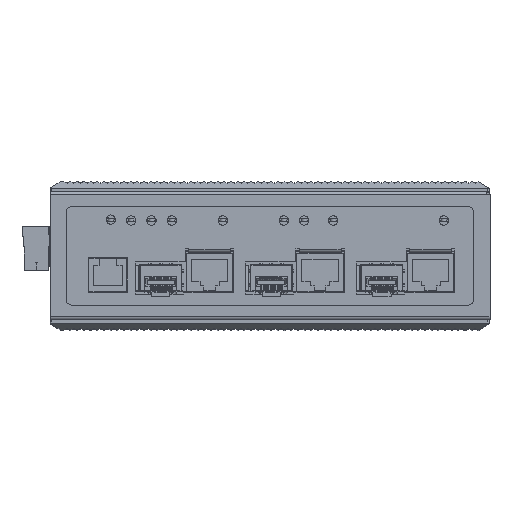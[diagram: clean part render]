
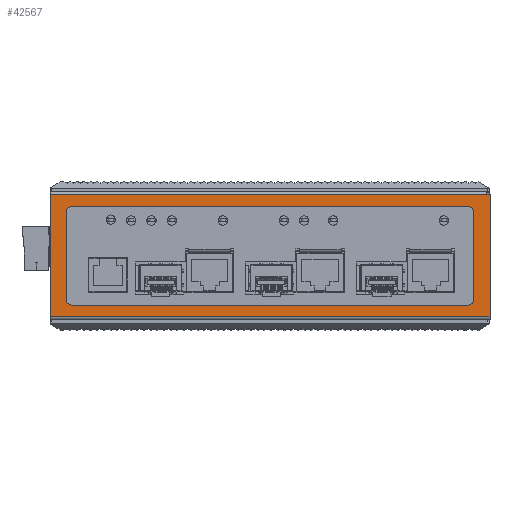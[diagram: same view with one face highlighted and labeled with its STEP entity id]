
A CAD part, top view. The second image highlights one B-rep face of the part: STEP entity #42567.
In plain terms, the highlighted planar face has unit normal (0, 0, 1).
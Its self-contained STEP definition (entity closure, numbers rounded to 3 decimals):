
#38618=DIRECTION('',(0.,-1.,0.));
#38619=VECTOR('',#38618,42.);
#38620=CARTESIAN_POINT('',(-75.8,35.,50.9));
#38621=LINE('',#38620,#38619);
#38622=DIRECTION('',(-1.,0.,0.));
#38623=VECTOR('',#38622,1.2);
#38624=CARTESIAN_POINT('',(75.4,35.,50.9));
#38625=LINE('',#38624,#38623);
#38626=DIRECTION('',(0.,1.,0.));
#38627=VECTOR('',#38626,42.);
#38628=CARTESIAN_POINT('',(75.4,-7.,50.9));
#38629=LINE('',#38628,#38627);
#38630=CARTESIAN_POINT('',(67.7,-1.,50.9));
#38631=DIRECTION('',(0.,0.,-1.));
#38632=DIRECTION('',(1.,0.,0.));
#38633=AXIS2_PLACEMENT_3D('',#38630,#38631,#38632);
#38635=DIRECTION('',(0.,-1.,0.));
#38636=VECTOR('',#38635,30.);
#38637=CARTESIAN_POINT('',(69.7,29.,50.9));
#38638=LINE('',#38637,#38636);
#38639=CARTESIAN_POINT('',(67.7,29.,50.9));
#38640=DIRECTION('',(0.,0.,-1.));
#38641=DIRECTION('',(0.,1.,0.));
#38642=AXIS2_PLACEMENT_3D('',#38639,#38640,#38641);
#38644=DIRECTION('',(1.,0.,0.));
#38645=VECTOR('',#38644,136.);
#38646=CARTESIAN_POINT('',(-68.3,31.,50.9));
#38647=LINE('',#38646,#38645);
#38648=CARTESIAN_POINT('',(-68.3,29.,50.9));
#38649=DIRECTION('',(0.,0.,-1.));
#38650=DIRECTION('',(-1.,0.,0.));
#38651=AXIS2_PLACEMENT_3D('',#38648,#38649,#38650);
#38653=DIRECTION('',(0.,1.,0.));
#38654=VECTOR('',#38653,30.);
#38655=CARTESIAN_POINT('',(-70.3,-1.,50.9));
#38656=LINE('',#38655,#38654);
#38657=CARTESIAN_POINT('',(-68.3,-1.,50.9));
#38658=DIRECTION('',(0.,0.,-1.));
#38659=DIRECTION('',(0.,-1.,0.));
#38660=AXIS2_PLACEMENT_3D('',#38657,#38658,#38659);
#38662=DIRECTION('',(-1.,0.,0.));
#38663=VECTOR('',#38662,136.);
#38664=CARTESIAN_POINT('',(67.7,-3.,50.9));
#38665=LINE('',#38664,#38663);
#38666=DIRECTION('',(1.,0.,0.));
#38667=VECTOR('',#38666,150.);
#38668=CARTESIAN_POINT('',(-75.8,35.,50.9));
#38669=LINE('',#38668,#38667);
#38687=DIRECTION('',(-1.,0.,0.));
#38688=VECTOR('',#38687,151.2);
#38689=CARTESIAN_POINT('',(75.4,-7.,50.9));
#38690=LINE('',#38689,#38688);
#40967=CARTESIAN_POINT('',(-75.8,35.,50.9));
#40968=VERTEX_POINT('',#40967);
#40969=CARTESIAN_POINT('',(74.2,35.,50.9));
#40970=VERTEX_POINT('',#40969);
#41029=CARTESIAN_POINT('',(-75.8,-7.,50.9));
#41030=VERTEX_POINT('',#41029);
#41031=CARTESIAN_POINT('',(75.4,35.,50.9));
#41032=VERTEX_POINT('',#41031);
#41067=CARTESIAN_POINT('',(75.4,-7.,50.9));
#41068=VERTEX_POINT('',#41067);
#41099=CARTESIAN_POINT('',(69.7,-1.,50.9));
#41100=CARTESIAN_POINT('',(67.7,-3.,50.9));
#41101=VERTEX_POINT('',#41099);
#41102=VERTEX_POINT('',#41100);
#41137=CARTESIAN_POINT('',(-68.3,-3.,50.9));
#41138=VERTEX_POINT('',#41137);
#41139=CARTESIAN_POINT('',(69.7,29.,50.9));
#41140=VERTEX_POINT('',#41139);
#41167=CARTESIAN_POINT('',(-70.3,-1.,50.9));
#41168=VERTEX_POINT('',#41167);
#41169=CARTESIAN_POINT('',(67.7,31.,50.9));
#41170=VERTEX_POINT('',#41169);
#41193=CARTESIAN_POINT('',(-70.3,29.,50.9));
#41194=VERTEX_POINT('',#41193);
#41197=CARTESIAN_POINT('',(-68.3,31.,50.9));
#41198=VERTEX_POINT('',#41197);
#42535=CARTESIAN_POINT('',(74.2,35.,50.9));
#42536=DIRECTION('',(0.,0.,-1.));
#42537=DIRECTION('',(1.,0.,0.));
#42538=AXIS2_PLACEMENT_3D('',#42535,#42536,#42537);
#42539=PLANE('',#42538);
#42540=ORIENTED_EDGE('',*,*,#42359,.F.);
#42542=ORIENTED_EDGE('',*,*,#42541,.T.);
#42543=ORIENTED_EDGE('',*,*,#42310,.F.);
#42544=ORIENTED_EDGE('',*,*,#42530,.F.);
#42546=ORIENTED_EDGE('',*,*,#42545,.T.);
#42547=EDGE_LOOP('',(#42540,#42542,#42543,#42544,#42546));
#42548=FACE_OUTER_BOUND('',#42547,.F.);
#42550=ORIENTED_EDGE('',*,*,#42549,.F.);
#42552=ORIENTED_EDGE('',*,*,#42551,.F.);
#42554=ORIENTED_EDGE('',*,*,#42553,.F.);
#42556=ORIENTED_EDGE('',*,*,#42555,.F.);
#42558=ORIENTED_EDGE('',*,*,#42557,.F.);
#42560=ORIENTED_EDGE('',*,*,#42559,.F.);
#42562=ORIENTED_EDGE('',*,*,#42561,.F.);
#42564=ORIENTED_EDGE('',*,*,#42563,.F.);
#42565=EDGE_LOOP('',(#42550,#42552,#42554,#42556,#42558,#42560,#42562,#42564));
#42566=FACE_BOUND('',#42565,.F.);
#42567=ADVANCED_FACE('',(#42548,#42566),#42539,.F.);
#38634=CIRCLE('',#38633,2.);
#38643=CIRCLE('',#38642,2.);
#38652=CIRCLE('',#38651,2.);
#38661=CIRCLE('',#38660,2.);
#42310=EDGE_CURVE('',#41032,#40970,#38625,.T.);
#42359=EDGE_CURVE('',#40968,#41030,#38621,.T.);
#42530=EDGE_CURVE('',#41068,#41032,#38629,.T.);
#42541=EDGE_CURVE('',#40968,#40970,#38669,.T.);
#42545=EDGE_CURVE('',#41068,#41030,#38690,.T.);
#42549=EDGE_CURVE('',#41101,#41102,#38634,.T.);
#42551=EDGE_CURVE('',#41140,#41101,#38638,.T.);
#42553=EDGE_CURVE('',#41170,#41140,#38643,.T.);
#42555=EDGE_CURVE('',#41198,#41170,#38647,.T.);
#42557=EDGE_CURVE('',#41194,#41198,#38652,.T.);
#42559=EDGE_CURVE('',#41168,#41194,#38656,.T.);
#42561=EDGE_CURVE('',#41138,#41168,#38661,.T.);
#42563=EDGE_CURVE('',#41102,#41138,#38665,.T.);
